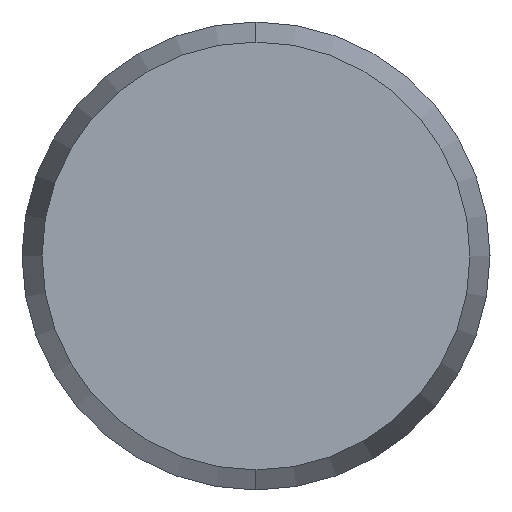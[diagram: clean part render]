
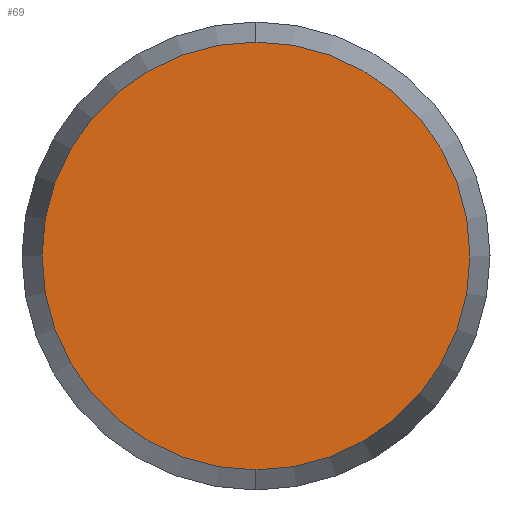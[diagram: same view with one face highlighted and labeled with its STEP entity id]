
A CAD part, left-side view. The second image highlights one B-rep face of the part: STEP entity #69.
In plain terms, the highlighted planar face has unit normal (-1, 0, 0).
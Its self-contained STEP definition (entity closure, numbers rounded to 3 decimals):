
#34 = VERTEX_POINT ( 'NONE', #135 ) ;
#35 = VERTEX_POINT ( 'NONE', #134 ) ;
#39 = EDGE_CURVE ( 'NONE', #35, #34, #128, .T. ) ;
#66 = EDGE_CURVE ( 'NONE', #34, #35, #174, .T. ) ;
#69 = ADVANCED_FACE ( 'NONE', ( #169 ), #168, .F. ) ;
#70 = EDGE_LOOP ( 'NONE', ( #71, #72 ) ) ;
#71 = ORIENTED_EDGE ( 'NONE', *, *, #39, .F. ) ;
#72 = ORIENTED_EDGE ( 'NONE', *, *, #66, .F. ) ;
#124 = DIRECTION ( 'NONE',  ( 0., 0., -1. ) ) ;
#125 = DIRECTION ( 'NONE',  ( 1., 0., 0. ) ) ;
#126 = CARTESIAN_POINT ( 'NONE',  ( -8., 0., 0. ) ) ;
#127 = AXIS2_PLACEMENT_3D ( 'NONE', #126, #125, #124 ) ;
#128 = CIRCLE ( 'NONE', #127, 2.286 ) ;
#134 = CARTESIAN_POINT ( 'NONE',  ( -8., 0., 2.286 ) ) ;
#135 = CARTESIAN_POINT ( 'NONE',  ( -8., 0., -2.286 ) ) ;
#163 = DIRECTION ( 'NONE',  ( 0., 0., -1. ) ) ;
#164 = DIRECTION ( 'NONE',  ( 1., 0., 0. ) ) ;
#165 = CARTESIAN_POINT ( 'NONE',  ( -8., 0., 0. ) ) ;
#167 = AXIS2_PLACEMENT_3D ( 'NONE', #165, #164, #163 ) ;
#168 = PLANE ( 'NONE',  #167 ) ;
#169 = FACE_OUTER_BOUND ( 'NONE', #70, .T. ) ;
#170 = DIRECTION ( 'NONE',  ( 0., 0., -1. ) ) ;
#171 = DIRECTION ( 'NONE',  ( 1., 0., 0. ) ) ;
#172 = CARTESIAN_POINT ( 'NONE',  ( -8., 0., 0. ) ) ;
#173 = AXIS2_PLACEMENT_3D ( 'NONE', #172, #171, #170 ) ;
#174 = CIRCLE ( 'NONE', #173, 2.286 ) ;
